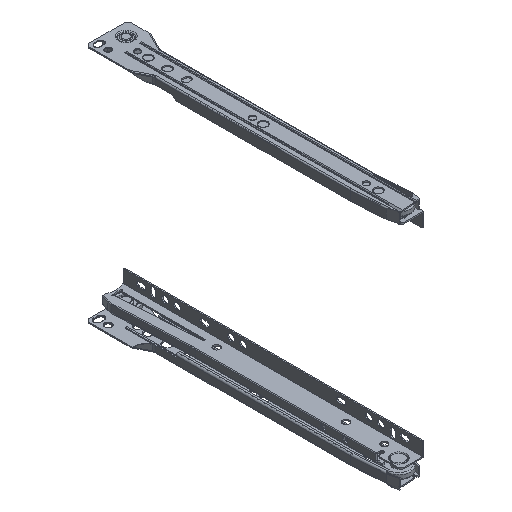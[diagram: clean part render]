
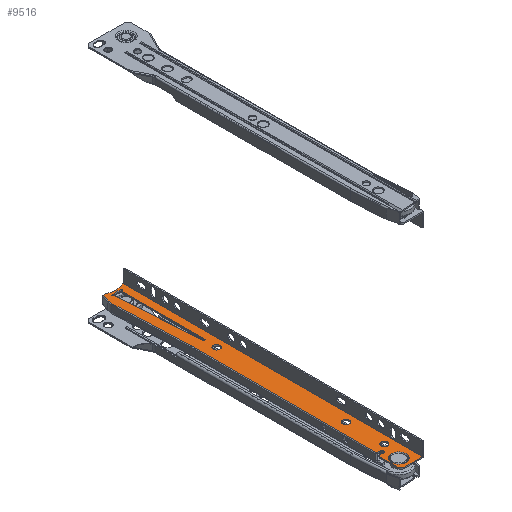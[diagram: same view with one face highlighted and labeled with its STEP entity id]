
A CAD part, isometric view. The second image highlights one B-rep face of the part: STEP entity #9516.
In plain terms, the highlighted planar face has unit normal (0, 0, 1) as drawn and (0, 0, -1) by its records, which use the part's own axes.
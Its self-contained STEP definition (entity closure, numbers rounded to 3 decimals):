
#449=ELLIPSE('',#10386,4.383,1.);
#913=LINE('',#15566,#1702);
#930=LINE('',#15630,#1719);
#947=LINE('',#15691,#1736);
#950=LINE('',#15703,#1739);
#955=LINE('',#15712,#1744);
#957=LINE('',#15719,#1746);
#958=LINE('',#15723,#1747);
#959=LINE('',#15727,#1748);
#960=LINE('',#15731,#1749);
#961=LINE('',#15733,#1750);
#962=LINE('',#15734,#1751);
#963=LINE('',#15745,#1752);
#964=LINE('',#15748,#1753);
#1702=VECTOR('',#12354,10.);
#1719=VECTOR('',#12409,10.);
#1736=VECTOR('',#12472,10.);
#1739=VECTOR('',#12487,10.);
#1744=VECTOR('',#12498,10.);
#1746=VECTOR('',#12506,10.);
#1747=VECTOR('',#12509,10.);
#1748=VECTOR('',#12512,10.);
#1749=VECTOR('',#12515,10.);
#1750=VECTOR('',#12516,10.);
#1751=VECTOR('',#12517,10.);
#1752=VECTOR('',#12526,10.);
#1753=VECTOR('',#12529,10.);
#2202=PLANE('',#10377);
#2411=FACE_BOUND('',#3505,.T.);
#2412=FACE_BOUND('',#3506,.T.);
#2413=FACE_BOUND('',#3507,.T.);
#2414=FACE_BOUND('',#3508,.T.);
#2415=FACE_BOUND('',#3509,.T.);
#2854=FACE_OUTER_BOUND('',#3504,.T.);
#3504=EDGE_LOOP('',(#7956,#7957,#7958,#7959,#7960,#7961,#7962,#7963,#7964,
#7965,#7966,#7967,#7968,#7969,#7970,#7971,#7972));
#3505=EDGE_LOOP('',(#7973));
#3506=EDGE_LOOP('',(#7974));
#3507=EDGE_LOOP('',(#7975));
#3508=EDGE_LOOP('',(#7976));
#3509=EDGE_LOOP('',(#7977,#7978,#7979,#7980));
#4018=CIRCLE('',#10327,2.75);
#4020=CIRCLE('',#10330,17.5);
#4045=CIRCLE('',#10371,9.5);
#4046=CIRCLE('',#10378,1.);
#4047=CIRCLE('',#10379,1.);
#4048=CIRCLE('',#10380,1.);
#4049=CIRCLE('',#10381,3.);
#4050=CIRCLE('',#10382,2.75);
#4051=CIRCLE('',#10383,6.25);
#4052=CIRCLE('',#10384,2.75);
#4053=CIRCLE('',#10385,1.03);
#4709=VERTEX_POINT('',#15537);
#4719=VERTEX_POINT('',#15564);
#4721=VERTEX_POINT('',#15570);
#4722=VERTEX_POINT('',#15573);
#4725=VERTEX_POINT('',#15578);
#4747=VERTEX_POINT('',#15628);
#4768=VERTEX_POINT('',#15690);
#4771=VERTEX_POINT('',#15697);
#4772=VERTEX_POINT('',#15710);
#4773=VERTEX_POINT('',#15716);
#4774=VERTEX_POINT('',#15718);
#4775=VERTEX_POINT('',#15720);
#4776=VERTEX_POINT('',#15722);
#4777=VERTEX_POINT('',#15724);
#4778=VERTEX_POINT('',#15726);
#4779=VERTEX_POINT('',#15728);
#4780=VERTEX_POINT('',#15730);
#4781=VERTEX_POINT('',#15732);
#4782=VERTEX_POINT('',#15735);
#4783=VERTEX_POINT('',#15737);
#4784=VERTEX_POINT('',#15739);
#4785=VERTEX_POINT('',#15741);
#4786=VERTEX_POINT('',#15742);
#4787=VERTEX_POINT('',#15744);
#4788=VERTEX_POINT('',#15746);
#5836=EDGE_CURVE('',#4709,#4719,#913,.T.);
#5838=EDGE_CURVE('',#4721,#4721,#4018,.T.);
#5842=EDGE_CURVE('',#4725,#4722,#4020,.T.);
#5868=EDGE_CURVE('',#4747,#4725,#930,.T.);
#5897=EDGE_CURVE('',#4768,#4709,#947,.T.);
#5902=EDGE_CURVE('',#4771,#4768,#4045,.T.);
#5904=EDGE_CURVE('',#4747,#4771,#950,.T.);
#5909=EDGE_CURVE('',#4772,#4719,#955,.T.);
#5911=EDGE_CURVE('',#4773,#4772,#4046,.T.);
#5912=EDGE_CURVE('',#4774,#4773,#957,.T.);
#5913=EDGE_CURVE('',#4775,#4774,#4047,.T.);
#5914=EDGE_CURVE('',#4776,#4775,#958,.T.);
#5915=EDGE_CURVE('',#4777,#4776,#4048,.T.);
#5916=EDGE_CURVE('',#4778,#4777,#959,.T.);
#5917=EDGE_CURVE('',#4779,#4778,#4049,.T.);
#5918=EDGE_CURVE('',#4780,#4779,#960,.T.);
#5919=EDGE_CURVE('',#4781,#4780,#961,.T.);
#5920=EDGE_CURVE('',#4722,#4781,#962,.T.);
#5921=EDGE_CURVE('',#4782,#4782,#4050,.T.);
#5922=EDGE_CURVE('',#4783,#4783,#4051,.T.);
#5923=EDGE_CURVE('',#4784,#4784,#4052,.T.);
#5924=EDGE_CURVE('',#4785,#4786,#4053,.T.);
#5925=EDGE_CURVE('',#4787,#4785,#963,.T.);
#5926=EDGE_CURVE('',#4788,#4787,#449,.T.);
#5927=EDGE_CURVE('',#4786,#4788,#964,.T.);
#7956=ORIENTED_EDGE('',*,*,#5842,.F.);
#7957=ORIENTED_EDGE('',*,*,#5868,.F.);
#7958=ORIENTED_EDGE('',*,*,#5904,.T.);
#7959=ORIENTED_EDGE('',*,*,#5902,.T.);
#7960=ORIENTED_EDGE('',*,*,#5897,.T.);
#7961=ORIENTED_EDGE('',*,*,#5836,.T.);
#7962=ORIENTED_EDGE('',*,*,#5909,.F.);
#7963=ORIENTED_EDGE('',*,*,#5911,.F.);
#7964=ORIENTED_EDGE('',*,*,#5912,.F.);
#7965=ORIENTED_EDGE('',*,*,#5913,.F.);
#7966=ORIENTED_EDGE('',*,*,#5914,.F.);
#7967=ORIENTED_EDGE('',*,*,#5915,.F.);
#7968=ORIENTED_EDGE('',*,*,#5916,.F.);
#7969=ORIENTED_EDGE('',*,*,#5917,.F.);
#7970=ORIENTED_EDGE('',*,*,#5918,.F.);
#7971=ORIENTED_EDGE('',*,*,#5919,.F.);
#7972=ORIENTED_EDGE('',*,*,#5920,.F.);
#7973=ORIENTED_EDGE('',*,*,#5838,.F.);
#7974=ORIENTED_EDGE('',*,*,#5921,.F.);
#7975=ORIENTED_EDGE('',*,*,#5922,.F.);
#7976=ORIENTED_EDGE('',*,*,#5923,.F.);
#7977=ORIENTED_EDGE('',*,*,#5924,.F.);
#7978=ORIENTED_EDGE('',*,*,#5925,.F.);
#7979=ORIENTED_EDGE('',*,*,#5926,.F.);
#7980=ORIENTED_EDGE('',*,*,#5927,.F.);
#9516=ADVANCED_FACE('',(#2854,#2411,#2412,#2413,#2414,#2415),#2202,.T.);
#10327=AXIS2_PLACEMENT_3D('',#15571,#12359,#12360);
#10330=AXIS2_PLACEMENT_3D('',#15580,#12367,#12368);
#10371=AXIS2_PLACEMENT_3D('',#15700,#12482,#12483);
#10377=AXIS2_PLACEMENT_3D('',#15715,#12502,#12503);
#10378=AXIS2_PLACEMENT_3D('',#15717,#12504,#12505);
#10379=AXIS2_PLACEMENT_3D('',#15721,#12507,#12508);
#10380=AXIS2_PLACEMENT_3D('',#15725,#12510,#12511);
#10381=AXIS2_PLACEMENT_3D('',#15729,#12513,#12514);
#10382=AXIS2_PLACEMENT_3D('',#15736,#12518,#12519);
#10383=AXIS2_PLACEMENT_3D('',#15738,#12520,#12521);
#10384=AXIS2_PLACEMENT_3D('',#15740,#12522,#12523);
#10385=AXIS2_PLACEMENT_3D('',#15743,#12524,#12525);
#10386=AXIS2_PLACEMENT_3D('',#15747,#12527,#12528);
#12354=DIRECTION('',(-1.,0.,0.));
#12359=DIRECTION('center_axis',(0.,0.,-1.));
#12360=DIRECTION('ref_axis',(-1.,0.,0.));
#12367=DIRECTION('center_axis',(0.,0.,-1.));
#12368=DIRECTION('ref_axis',(-1.,0.,0.));
#12409=DIRECTION('',(0.,1.,0.));
#12472=DIRECTION('',(-0.999,0.04,0.));
#12482=DIRECTION('center_axis',(0.,0.,-1.));
#12483=DIRECTION('ref_axis',(0.141,-0.99,0.));
#12487=DIRECTION('',(-0.948,-0.318,0.));
#12498=DIRECTION('',(0.,-1.,0.));
#12502=DIRECTION('center_axis',(0.,0.,-1.));
#12503=DIRECTION('ref_axis',(1.,0.,0.));
#12504=DIRECTION('center_axis',(0.,0.,-1.));
#12505=DIRECTION('ref_axis',(0.,1.,0.));
#12506=DIRECTION('',(1.,0.,0.));
#12507=DIRECTION('center_axis',(0.,0.,-1.));
#12508=DIRECTION('ref_axis',(-1.,0.,0.));
#12509=DIRECTION('',(0.,1.,0.));
#12510=DIRECTION('center_axis',(0.,0.,1.));
#12511=DIRECTION('ref_axis',(-1.,0.,0.));
#12512=DIRECTION('',(1.,0.,0.));
#12513=DIRECTION('center_axis',(0.,0.,1.));
#12514=DIRECTION('ref_axis',(0.,1.,0.));
#12515=DIRECTION('',(0.,-1.,0.));
#12516=DIRECTION('',(-1.,0.,0.));
#12517=DIRECTION('',(0.,1.,0.));
#12518=DIRECTION('center_axis',(0.,0.,-1.));
#12519=DIRECTION('ref_axis',(-1.,0.,0.));
#12520=DIRECTION('center_axis',(0.,0.,-1.));
#12521=DIRECTION('ref_axis',(-1.,0.,0.));
#12522=DIRECTION('center_axis',(0.,0.,-1.));
#12523=DIRECTION('ref_axis',(-1.,0.,0.));
#12524=DIRECTION('center_axis',(0.,0.,-1.));
#12525=DIRECTION('ref_axis',(1.,-0.03,0.));
#12526=DIRECTION('',(-0.998,0.061,0.));
#12527=DIRECTION('center_axis',(0.,0.,-1.));
#12528=DIRECTION('ref_axis',(-0.03,-1.,0.));
#12529=DIRECTION('',(1.,0.,0.));
#15537=CARTESIAN_POINT('',(143.766,-28.491,0.));
#15564=CARTESIAN_POINT('',(-9.244,-28.491,0.));
#15566=CARTESIAN_POINT('',(41.71,-28.491,0.));
#15570=CARTESIAN_POINT('',(-3.494,-18.991,0.));
#15571=CARTESIAN_POINT('Origin',(-6.244,-18.991,0.));
#15573=CARTESIAN_POINT('',(218.756,-12.193,0.));
#15578=CARTESIAN_POINT('',(218.756,-26.737,0.));
#15580=CARTESIAN_POINT('Origin',(234.674,-19.465,0.));
#15628=CARTESIAN_POINT('',(218.756,-28.464,0.));
#15630=CARTESIAN_POINT('',(218.756,-31.991,0.));
#15690=CARTESIAN_POINT('',(208.941,-31.098,0.));
#15691=CARTESIAN_POINT('',(118.099,-27.464,0.));
#15697=CARTESIAN_POINT('',(212.339,-30.614,0.));
#15700=CARTESIAN_POINT('Origin',(209.321,-21.606,0.));
#15703=CARTESIAN_POINT('',(159.21,-48.412,0.));
#15710=CARTESIAN_POINT('',(-9.244,-24.991,0.));
#15712=CARTESIAN_POINT('',(-9.244,-24.991,0.));
#15715=CARTESIAN_POINT('Origin',(92.664,-20.376,0.));
#15716=CARTESIAN_POINT('',(-10.244,-23.991,0.));
#15717=CARTESIAN_POINT('Origin',(-10.244,-24.991,0.));
#15718=CARTESIAN_POINT('',(-11.244,-23.991,0.));
#15719=CARTESIAN_POINT('',(-11.244,-23.991,0.));
#15720=CARTESIAN_POINT('',(-12.244,-24.991,0.));
#15721=CARTESIAN_POINT('Origin',(-11.244,-24.991,0.));
#15722=CARTESIAN_POINT('',(-12.244,-28.991,0.));
#15723=CARTESIAN_POINT('',(-12.244,-28.991,0.));
#15724=CARTESIAN_POINT('',(-13.244,-29.991,0.));
#15725=CARTESIAN_POINT('Origin',(-13.244,-28.991,0.));
#15726=CARTESIAN_POINT('',(-28.244,-29.991,0.));
#15727=CARTESIAN_POINT('',(-28.244,-29.991,0.));
#15728=CARTESIAN_POINT('',(-31.244,-26.991,0.));
#15729=CARTESIAN_POINT('Origin',(-28.244,-26.991,0.));
#15730=CARTESIAN_POINT('',(-31.244,-11.991,0.));
#15731=CARTESIAN_POINT('',(-31.244,-10.991,0.));
#15732=CARTESIAN_POINT('',(218.756,-11.991,0.));
#15733=CARTESIAN_POINT('',(93.21,-11.991,0.));
#15734=CARTESIAN_POINT('',(218.756,-31.991,0.));
#15735=CARTESIAN_POINT('',(28.506,-18.991,0.));
#15736=CARTESIAN_POINT('Origin',(25.756,-18.991,0.));
#15737=CARTESIAN_POINT('',(-15.994,-22.991,0.));
#15738=CARTESIAN_POINT('Origin',(-22.244,-22.991,0.));
#15739=CARTESIAN_POINT('',(136.506,-18.991,0.));
#15740=CARTESIAN_POINT('Origin',(133.756,-18.991,0.));
#15741=CARTESIAN_POINT('',(144.693,-20.049,0.));
#15742=CARTESIAN_POINT('',(144.756,-17.992,0.));
#15743=CARTESIAN_POINT('Origin',(144.756,-19.021,0.));
#15744=CARTESIAN_POINT('',(213.929,-24.249,0.));
#15745=CARTESIAN_POINT('',(153.402,-20.578,0.));
#15746=CARTESIAN_POINT('',(214.119,-17.992,0.));
#15747=CARTESIAN_POINT('Origin',(214.724,-21.142,0.));
#15748=CARTESIAN_POINT('',(118.71,-17.992,0.));
